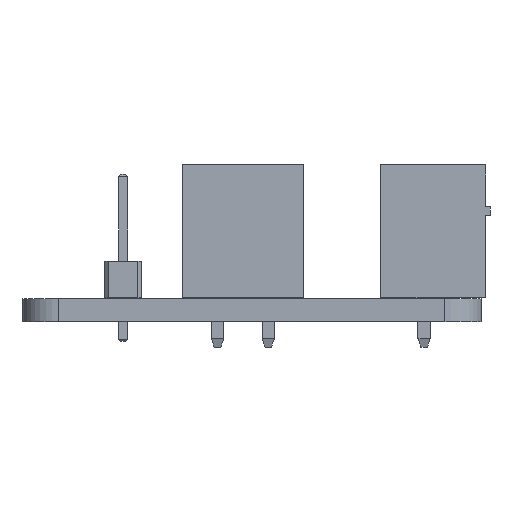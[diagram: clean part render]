
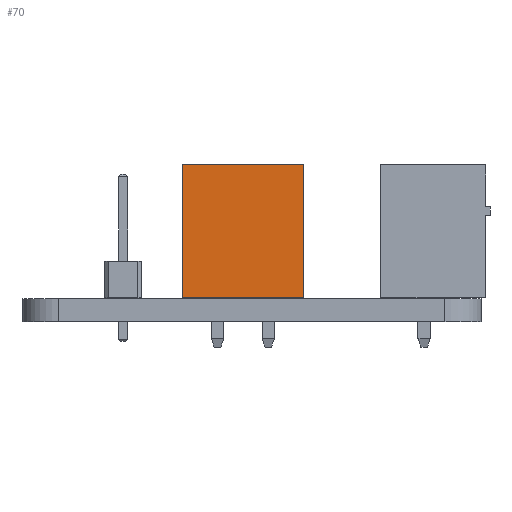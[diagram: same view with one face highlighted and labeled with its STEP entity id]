
A CAD part, left-side view. The second image highlights one B-rep face of the part: STEP entity #70.
In plain terms, the highlighted planar face has unit normal (-1, 0, 0) as drawn and (0, -1, 0) by its records, which use the part's own axes.
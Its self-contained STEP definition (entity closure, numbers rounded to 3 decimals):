
#70 = ADVANCED_FACE('',(#71),#105,.F.);
#71 = FACE_BOUND('',#72,.F.);
#72 = EDGE_LOOP('',(#73,#83,#91,#99));
#73 = ORIENTED_EDGE('',*,*,#74,.T.);
#74 = EDGE_CURVE('',#75,#77,#79,.T.);
#75 = VERTEX_POINT('',#76);
#76 = CARTESIAN_POINT('',(-2.45,-3.,0.));
#77 = VERTEX_POINT('',#78);
#78 = CARTESIAN_POINT('',(-2.45,-3.,9.2));
#79 = LINE('',#80,#81);
#80 = CARTESIAN_POINT('',(-2.45,-3.,0.));
#81 = VECTOR('',#82,1.);
#82 = DIRECTION('',(0.,0.,1.));
#83 = ORIENTED_EDGE('',*,*,#84,.T.);
#84 = EDGE_CURVE('',#77,#85,#87,.T.);
#85 = VERTEX_POINT('',#86);
#86 = CARTESIAN_POINT('',(5.95,-3.,9.2));
#87 = LINE('',#88,#89);
#88 = CARTESIAN_POINT('',(-2.45,-3.,9.2));
#89 = VECTOR('',#90,1.);
#90 = DIRECTION('',(1.,0.,0.));
#91 = ORIENTED_EDGE('',*,*,#92,.F.);
#92 = EDGE_CURVE('',#93,#85,#95,.T.);
#93 = VERTEX_POINT('',#94);
#94 = CARTESIAN_POINT('',(5.95,-3.,0.));
#95 = LINE('',#96,#97);
#96 = CARTESIAN_POINT('',(5.95,-3.,0.));
#97 = VECTOR('',#98,1.);
#98 = DIRECTION('',(0.,0.,1.));
#99 = ORIENTED_EDGE('',*,*,#100,.F.);
#100 = EDGE_CURVE('',#75,#93,#101,.T.);
#101 = LINE('',#102,#103);
#102 = CARTESIAN_POINT('',(-2.45,-3.,0.));
#103 = VECTOR('',#104,1.);
#104 = DIRECTION('',(1.,0.,0.));
#105 = PLANE('',#106);
#106 = AXIS2_PLACEMENT_3D('',#107,#108,#109);
#107 = CARTESIAN_POINT('',(-2.45,-3.,0.));
#108 = DIRECTION('',(0.,1.,0.));
#109 = DIRECTION('',(1.,0.,0.));
